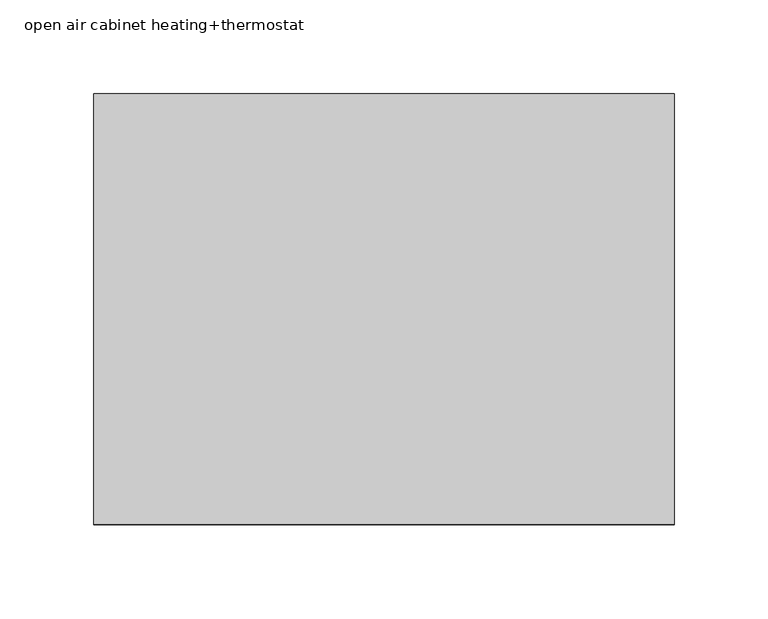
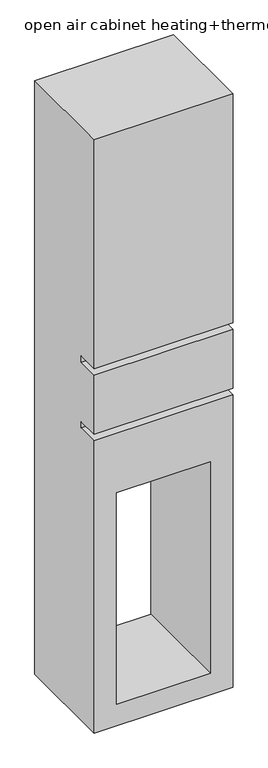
"""IFC4 building model written with IfcOpenShell, lengths in millimetres: furniture geometry, ME_UN_outdoor cabinet_ACO : open air cabinet heating+thermostat."""

from ifc_helpers import new_model, si_unit, origin, place, context, project, spatial, faceted_brep, source, transform, mapped, element, save


def open_air_cabinet_heating_thermostat_9f62fe86(model_context):
    return source(origin(), model_context, "Body", "Brep", [
        faceted_brep([(155.0, 0.0, 800.0), (-155.0, 0.0, 800.0), (-155.0, 0.0, 260.0), (155.0, 0.0, 260.0), (-155.0, 0.0, -600.0), (155.0, 0.0, -600.0), (155.0, 0.0, 90.0), (-155.0, 0.0, 90.0), (105.0, 0.0, -550.0), (-105.0, 0.0, -550.0), (-105.0, 0.0, -50.0), (105.0, 0.0, -50.0), (-155.0, 0.0, 245.0), (-155.0, 0.0, 105.0), (155.0, 0.0, 105.0), (155.0, 0.0, 245.0), (155.0, 230.0, 800.0), (155.0, 230.0, -600.0), (-155.0, 230.0, -600.0), (-155.0, 230.0, 800.0), (-105.0, 230.0, -550.0), (105.0, 230.0, -550.0), (105.0, 230.0, -50.0), (-105.0, 230.0, -50.0), (-155.0, 50.0, 90.0), (-155.0, 50.0, 105.0), (-155.0, 50.0, 245.0), (-155.0, 50.0, 260.0), (155.0, 50.0, 260.0), (155.0, 50.0, 245.0), (155.0, 50.0, 105.0), (155.0, 50.0, 90.0)], [[[0, 1, 2, 3]], [[4, 5, 6, 7], [8, 9, 10, 11]], [[12, 13, 14, 15]], [[16, 17, 18, 19], [20, 21, 22, 23]], [[1, 0, 16, 19]], [[19, 18, 4, 7, 24, 25, 13, 12, 26, 27, 2, 1]], [[5, 4, 18, 17]], [[17, 16, 0, 3, 28, 29, 15, 14, 30, 31, 6, 5]], [[8, 21, 20, 9]], [[21, 8, 11, 22]], [[22, 11, 10, 23]], [[9, 20, 23, 10]], [[30, 25, 24, 31]], [[28, 27, 26, 29]], [[25, 30, 14, 13]], [[31, 24, 7, 6]], [[27, 28, 3, 2]], [[29, 26, 12, 15]]]),
    ])


if __name__ == "__main__":
    model = new_model("IFC4")
    model_context = context("Model", 3, world=origin())
    ifc_project = project(units=[si_unit("LENGTHUNIT", "METRE", prefix="MILLI")], contexts=[model_context])
    site = spatial("IfcSite", under=ifc_project)
    building = spatial("IfcBuilding", under=site)
    placement = place(None, origin())
    open_air_cabinet_heating_thermostat_shape = open_air_cabinet_heating_thermostat_9f62fe86(model_context)
    element("IfcFurniture", 1, ObjectType="ME_UN_outdoor cabinet_ACO : open air cabinet heating+thermostat", at=placement, inside=building, context=model_context, shape_type="MappedRepresentation", body=[
        mapped(open_air_cabinet_heating_thermostat_shape, transform((0.0, 0.0, 0.0), x_axis=(1.0, 0.0, 0.0), y_axis=(0.0, 1.0, 0.0), z_axis=(0.0, 0.0, 1.0))),
    ])
    save(model, "model.ifc")
